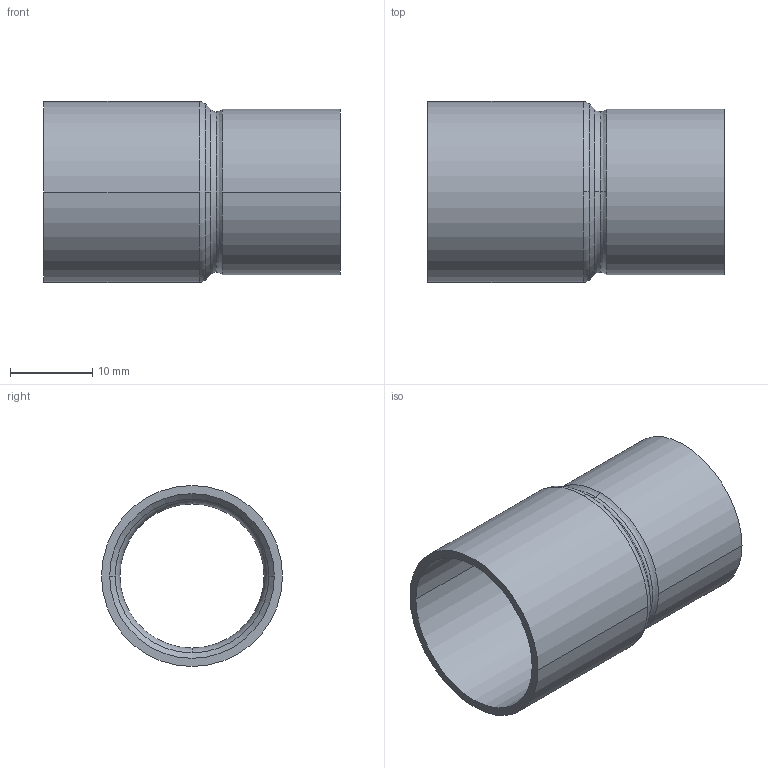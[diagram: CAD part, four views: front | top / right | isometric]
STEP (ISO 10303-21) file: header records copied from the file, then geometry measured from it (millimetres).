
FILE_DESCRIPTION((''),'2;1');
FILE_NAME('G:\Technics\CAD\Bauteile\Serie 15243\152432218.stp','2005-10-21T12:49:38',('boden'),(''),'Autodesk Inventor 8','Autodesk Inventor 8','');
FILE_SCHEMA(('AUTOMOTIVE_DESIGN { 1 0 10303 214 1 1 1 1 }'));
Length unit declared in the file: millimetre
Products named in the file (1): 152432218
Bounding box: 36 x 22 x 22 mm (x, y, z)
Volume: 2305.8 mm3; surface area: 4737.9 mm2
Topology: 1 solids, 1 shells, 24 faces, 60 edges, 38 vertices
Faces by surface type: cylinder 8, torus 6, bspline 4, cone 4, plane 2
Entity records: 931 total; most frequent: CARTESIAN_POINT 299, DIRECTION 150, ORIENTED_EDGE 120, AXIS2_PLACEMENT_3D 69, EDGE_CURVE 60, CIRCLE 48, VERTEX_POINT 38, EDGE_LOOP 26
